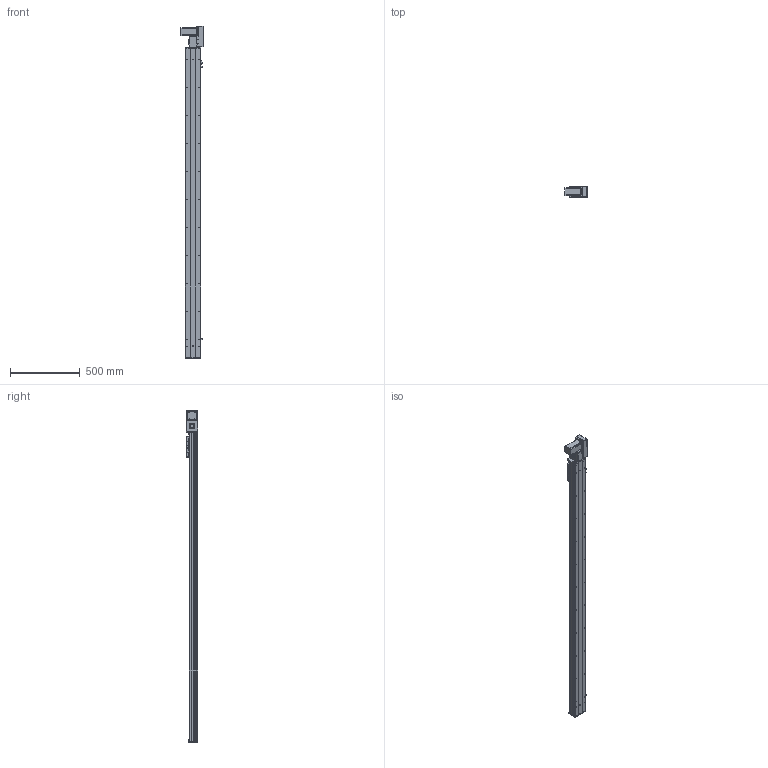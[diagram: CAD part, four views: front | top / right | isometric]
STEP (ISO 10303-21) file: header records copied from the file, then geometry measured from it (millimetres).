
FILE_DESCRIPTION (( 'STEP AP203' ), '1' );
FILE_NAME ('Y10CB-D90-S1950-BR-P400W.STEP', '2020-02-16T02:11:03', ( '微软用户' ), ( '微软中国' ), 'SwSTEP 2.0', 'SolidWorks 2017', '' );
FILE_SCHEMA (( 'CONFIG_CONTROL_DESIGN' ));
Length unit declared in the file: millimetre
Products named in the file (18): 0Cb-俋欶---; Y10CB- 掛极耜裔啣-毀---; Y10B-々湍喘謫眊楊擘啣--; Y10C---詩湍揤啣; Y10B-耜蚾蟀諉啣----; 10CB9-掛极; 0B-萇儂楊擘啣; 10CB-耜裔; san松下电机400不带刹车----; Y135C-陔俋离換覜結え-; 0B-源倛裔啣; Y100-135俋离換覜ん--; 0B-埴倛裔啣; Y10B--々湍喘謫眊--666; Y俋欶BR----; 0CB-雄赽釱---; Y10CB-D90-S1950-BR-P400W; 10CB-詩湍-
Assembly tree (21 placements, depth 2):
  Y10CB-D90-S1950-BR-P400W
    0CB-雄赽釱---
    0Cb-俋欶---
    Y10B-々湍喘謫眊楊擘啣--
    Y10B-耜蚾蟀諉啣----
    0B-萇儂楊擘啣
    san松下电机400不带刹车----
    0B-源倛裔啣
    0B-埴倛裔啣
    Y俋欶BR----
    10CB-詩湍-
    Y10CB- 掛极耜裔啣-毀---  x2
    Y10C---詩湍揤啣  x2
    10CB9-掛极
    10CB-耜裔
    Y135C-陔俋离換覜結え-
    Y100-135俋离換覜ん--  x3
    Y10B--々湍喘謫眊--666
Bounding box: 157.5 x 80.5 x 2372.5 mm (x, y, z)
Volume: 4794351 mm3; surface area: 2249096.1 mm2
Topology: 21 solids, 21 shells, 1050 faces, 2843 edges, 1850 vertices
Faces by surface type: cylinder 537, plane 489, cone 24
Entity records: 33404 total; most frequent: CARTESIAN_POINT 6209, DIRECTION 5334, ORIENTED_EDGE 5156, EDGE_CURVE 2578, AXIS2_PLACEMENT_3D 1905, VERTEX_POINT 1676, VECTOR 1524, LINE 1524
